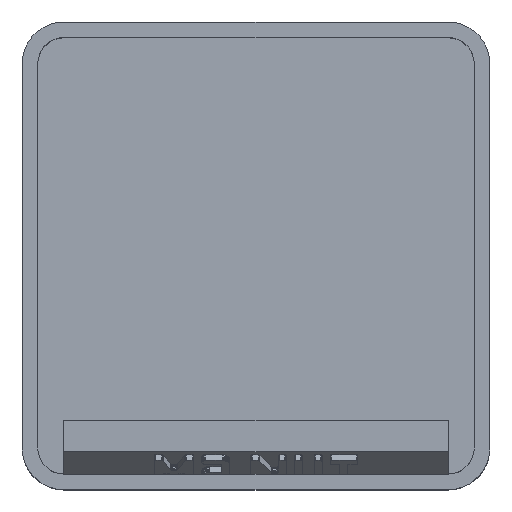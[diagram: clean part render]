
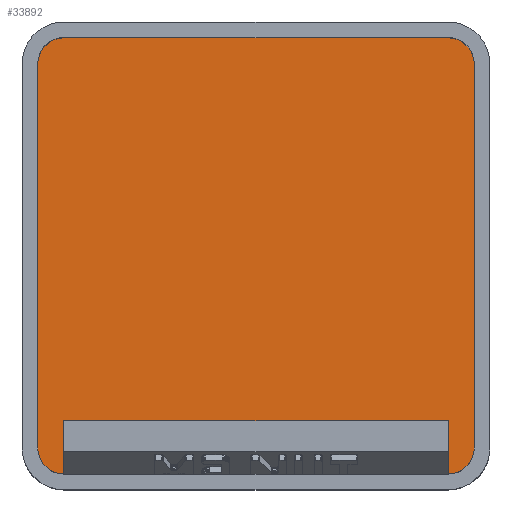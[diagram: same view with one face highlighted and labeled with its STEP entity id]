
A CAD part, top view. The second image highlights one B-rep face of the part: STEP entity #33892.
In plain terms, the highlighted planar face has unit normal (0, 0, 1).
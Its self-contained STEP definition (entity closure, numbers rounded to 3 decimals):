
#912 = PLANE('',#913);
#913 = AXIS2_PLACEMENT_3D('',#914,#915,#916);
#914 = CARTESIAN_POINT('',(-19.6,0.,21.));
#915 = DIRECTION('',(-1.,0.,0.));
#916 = DIRECTION('',(-0.,-1.,-0.));
#940 = CYLINDRICAL_SURFACE('',#941,2.35);
#941 = AXIS2_PLACEMENT_3D('',#942,#943,#944);
#942 = CARTESIAN_POINT('',(-17.25,17.25,5.95));
#943 = DIRECTION('',(-0.,-0.,1.));
#944 = DIRECTION('',(-1.,0.,0.));
#967 = PLANE('',#968);
#968 = AXIS2_PLACEMENT_3D('',#969,#970,#971);
#969 = CARTESIAN_POINT('',(0.,19.6,21.));
#970 = DIRECTION('',(0.,1.,0.));
#971 = DIRECTION('',(-1.,0.,0.));
#995 = CYLINDRICAL_SURFACE('',#996,2.35);
#996 = AXIS2_PLACEMENT_3D('',#997,#998,#999);
#997 = CARTESIAN_POINT('',(17.25,17.25,5.95));
#998 = DIRECTION('',(-0.,-0.,1.));
#999 = DIRECTION('',(-1.,0.,0.));
#1022 = PLANE('',#1023);
#1023 = AXIS2_PLACEMENT_3D('',#1024,#1025,#1026);
#1024 = CARTESIAN_POINT('',(19.6,0.,21.));
#1025 = DIRECTION('',(1.,0.,0.));
#1026 = DIRECTION('',(-0.,1.,0.));
#1050 = CYLINDRICAL_SURFACE('',#1051,2.35);
#1051 = AXIS2_PLACEMENT_3D('',#1052,#1053,#1054);
#1052 = CARTESIAN_POINT('',(17.25,-17.25,5.95));
#1053 = DIRECTION('',(-0.,-0.,1.));
#1054 = DIRECTION('',(-1.,0.,0.));
#1103 = CYLINDRICAL_SURFACE('',#1104,2.35);
#1104 = AXIS2_PLACEMENT_3D('',#1105,#1106,#1107);
#1105 = CARTESIAN_POINT('',(-17.25,-17.25,5.95));
#1106 = DIRECTION('',(-0.,-0.,1.));
#1107 = DIRECTION('',(-1.,0.,0.));
#12717 = EDGE_CURVE('',#12718,#12720,#12722,.T.);
#12718 = VERTEX_POINT('',#12719);
#12719 = CARTESIAN_POINT('',(-19.6,-17.25,5.95));
#12720 = VERTEX_POINT('',#12721);
#12721 = CARTESIAN_POINT('',(-19.6,17.25,5.95));
#12722 = SURFACE_CURVE('',#12723,(#12727,#12734),.PCURVE_S1.);
#12723 = LINE('',#12724,#12725);
#12724 = CARTESIAN_POINT('',(-19.6,0.,5.95));
#12725 = VECTOR('',#12726,1.);
#12726 = DIRECTION('',(0.,1.,0.));
#12727 = PCURVE('',#912,#12728);
#12728 = DEFINITIONAL_REPRESENTATION('',(#12729),#12733);
#12729 = LINE('',#12730,#12731);
#12730 = CARTESIAN_POINT('',(0.,-15.05));
#12731 = VECTOR('',#12732,1.);
#12732 = DIRECTION('',(-1.,0.));
#12733 = ( GEOMETRIC_REPRESENTATION_CONTEXT(2) 
PARAMETRIC_REPRESENTATION_CONTEXT() REPRESENTATION_CONTEXT('2D SPACE',''
  ) );
#12734 = PCURVE('',#12735,#12740);
#12735 = PLANE('',#12736);
#12736 = AXIS2_PLACEMENT_3D('',#12737,#12738,#12739);
#12737 = CARTESIAN_POINT('',(-17.25,-17.25,5.95));
#12738 = DIRECTION('',(0.,0.,-1.));
#12739 = DIRECTION('',(-1.,0.,0.));
#12740 = DEFINITIONAL_REPRESENTATION('',(#12741),#12745);
#12741 = LINE('',#12742,#12743);
#12742 = CARTESIAN_POINT('',(2.35,17.25));
#12743 = VECTOR('',#12744,1.);
#12744 = DIRECTION('',(0.,1.));
#12745 = ( GEOMETRIC_REPRESENTATION_CONTEXT(2) 
PARAMETRIC_REPRESENTATION_CONTEXT() REPRESENTATION_CONTEXT('2D SPACE',''
  ) );
#12792 = EDGE_CURVE('',#12793,#12718,#12795,.T.);
#12793 = VERTEX_POINT('',#12794);
#12794 = CARTESIAN_POINT('',(-17.25,-19.6,5.95));
#12795 = SURFACE_CURVE('',#12796,(#12801,#12808),.PCURVE_S1.);
#12796 = CIRCLE('',#12797,2.35);
#12797 = AXIS2_PLACEMENT_3D('',#12798,#12799,#12800);
#12798 = CARTESIAN_POINT('',(-17.25,-17.25,5.95));
#12799 = DIRECTION('',(0.,0.,-1.));
#12800 = DIRECTION('',(-1.,0.,0.));
#12801 = PCURVE('',#1103,#12802);
#12802 = DEFINITIONAL_REPRESENTATION('',(#12803),#12807);
#12803 = LINE('',#12804,#12805);
#12804 = CARTESIAN_POINT('',(6.283,0.));
#12805 = VECTOR('',#12806,1.);
#12806 = DIRECTION('',(-1.,0.));
#12807 = ( GEOMETRIC_REPRESENTATION_CONTEXT(2) 
PARAMETRIC_REPRESENTATION_CONTEXT() REPRESENTATION_CONTEXT('2D SPACE',''
  ) );
#12808 = PCURVE('',#12735,#12809);
#12809 = DEFINITIONAL_REPRESENTATION('',(#12810),#12814);
#12810 = CIRCLE('',#12811,2.35);
#12811 = AXIS2_PLACEMENT_2D('',#12812,#12813);
#12812 = CARTESIAN_POINT('',(0.,0.));
#12813 = DIRECTION('',(1.,0.));
#12814 = ( GEOMETRIC_REPRESENTATION_CONTEXT(2) 
PARAMETRIC_REPRESENTATION_CONTEXT() REPRESENTATION_CONTEXT('2D SPACE',''
  ) );
#12832 = PLANE('',#12833);
#12833 = AXIS2_PLACEMENT_3D('',#12834,#12835,#12836);
#12834 = CARTESIAN_POINT('',(0.,-19.6,21.));
#12835 = DIRECTION('',(0.,-1.,0.));
#12836 = DIRECTION('',(1.,0.,0.));
#12919 = EDGE_CURVE('',#12920,#12922,#12924,.T.);
#12920 = VERTEX_POINT('',#12921);
#12921 = CARTESIAN_POINT('',(19.6,-17.25,5.95));
#12922 = VERTEX_POINT('',#12923);
#12923 = CARTESIAN_POINT('',(17.25,-19.6,5.95));
#12924 = SURFACE_CURVE('',#12925,(#12930,#12937),.PCURVE_S1.);
#12925 = CIRCLE('',#12926,2.35);
#12926 = AXIS2_PLACEMENT_3D('',#12927,#12928,#12929);
#12927 = CARTESIAN_POINT('',(17.25,-17.25,5.95));
#12928 = DIRECTION('',(0.,0.,-1.));
#12929 = DIRECTION('',(-1.,0.,0.));
#12930 = PCURVE('',#1050,#12931);
#12931 = DEFINITIONAL_REPRESENTATION('',(#12932),#12936);
#12932 = LINE('',#12933,#12934);
#12933 = CARTESIAN_POINT('',(6.283,0.));
#12934 = VECTOR('',#12935,1.);
#12935 = DIRECTION('',(-1.,0.));
#12936 = ( GEOMETRIC_REPRESENTATION_CONTEXT(2) 
PARAMETRIC_REPRESENTATION_CONTEXT() REPRESENTATION_CONTEXT('2D SPACE',''
  ) );
#12937 = PCURVE('',#12735,#12938);
#12938 = DEFINITIONAL_REPRESENTATION('',(#12939),#12943);
#12939 = CIRCLE('',#12940,2.35);
#12940 = AXIS2_PLACEMENT_2D('',#12941,#12942);
#12941 = CARTESIAN_POINT('',(-34.5,0.));
#12942 = DIRECTION('',(1.,0.));
#12943 = ( GEOMETRIC_REPRESENTATION_CONTEXT(2) 
PARAMETRIC_REPRESENTATION_CONTEXT() REPRESENTATION_CONTEXT('2D SPACE',''
  ) );
#13017 = EDGE_CURVE('',#12920,#13018,#13020,.T.);
#13018 = VERTEX_POINT('',#13019);
#13019 = CARTESIAN_POINT('',(19.6,17.25,5.95));
#13020 = SURFACE_CURVE('',#13021,(#13025,#13032),.PCURVE_S1.);
#13021 = LINE('',#13022,#13023);
#13022 = CARTESIAN_POINT('',(19.6,0.,5.95));
#13023 = VECTOR('',#13024,1.);
#13024 = DIRECTION('',(0.,1.,0.));
#13025 = PCURVE('',#1022,#13026);
#13026 = DEFINITIONAL_REPRESENTATION('',(#13027),#13031);
#13027 = LINE('',#13028,#13029);
#13028 = CARTESIAN_POINT('',(0.,-15.05));
#13029 = VECTOR('',#13030,1.);
#13030 = DIRECTION('',(1.,0.));
#13031 = ( GEOMETRIC_REPRESENTATION_CONTEXT(2) 
PARAMETRIC_REPRESENTATION_CONTEXT() REPRESENTATION_CONTEXT('2D SPACE',''
  ) );
#13032 = PCURVE('',#12735,#13033);
#13033 = DEFINITIONAL_REPRESENTATION('',(#13034),#13038);
#13034 = LINE('',#13035,#13036);
#13035 = CARTESIAN_POINT('',(-36.85,17.25));
#13036 = VECTOR('',#13037,1.);
#13037 = DIRECTION('',(0.,1.));
#13038 = ( GEOMETRIC_REPRESENTATION_CONTEXT(2) 
PARAMETRIC_REPRESENTATION_CONTEXT() REPRESENTATION_CONTEXT('2D SPACE',''
  ) );
#13065 = EDGE_CURVE('',#13066,#13018,#13068,.T.);
#13066 = VERTEX_POINT('',#13067);
#13067 = CARTESIAN_POINT('',(17.25,19.6,5.95));
#13068 = SURFACE_CURVE('',#13069,(#13074,#13081),.PCURVE_S1.);
#13069 = CIRCLE('',#13070,2.35);
#13070 = AXIS2_PLACEMENT_3D('',#13071,#13072,#13073);
#13071 = CARTESIAN_POINT('',(17.25,17.25,5.95));
#13072 = DIRECTION('',(0.,0.,-1.));
#13073 = DIRECTION('',(-1.,0.,0.));
#13074 = PCURVE('',#995,#13075);
#13075 = DEFINITIONAL_REPRESENTATION('',(#13076),#13080);
#13076 = LINE('',#13077,#13078);
#13077 = CARTESIAN_POINT('',(6.283,0.));
#13078 = VECTOR('',#13079,1.);
#13079 = DIRECTION('',(-1.,0.));
#13080 = ( GEOMETRIC_REPRESENTATION_CONTEXT(2) 
PARAMETRIC_REPRESENTATION_CONTEXT() REPRESENTATION_CONTEXT('2D SPACE',''
  ) );
#13081 = PCURVE('',#12735,#13082);
#13082 = DEFINITIONAL_REPRESENTATION('',(#13083),#13087);
#13083 = CIRCLE('',#13084,2.35);
#13084 = AXIS2_PLACEMENT_2D('',#13085,#13086);
#13085 = CARTESIAN_POINT('',(-34.5,34.5));
#13086 = DIRECTION('',(1.,0.));
#13087 = ( GEOMETRIC_REPRESENTATION_CONTEXT(2) 
PARAMETRIC_REPRESENTATION_CONTEXT() REPRESENTATION_CONTEXT('2D SPACE',''
  ) );
#13115 = EDGE_CURVE('',#13116,#13066,#13118,.T.);
#13116 = VERTEX_POINT('',#13117);
#13117 = CARTESIAN_POINT('',(-17.25,19.6,5.95));
#13118 = SURFACE_CURVE('',#13119,(#13123,#13130),.PCURVE_S1.);
#13119 = LINE('',#13120,#13121);
#13120 = CARTESIAN_POINT('',(0.,19.6,5.95));
#13121 = VECTOR('',#13122,1.);
#13122 = DIRECTION('',(1.,0.,0.));
#13123 = PCURVE('',#967,#13124);
#13124 = DEFINITIONAL_REPRESENTATION('',(#13125),#13129);
#13125 = LINE('',#13126,#13127);
#13126 = CARTESIAN_POINT('',(0.,-15.05));
#13127 = VECTOR('',#13128,1.);
#13128 = DIRECTION('',(-1.,0.));
#13129 = ( GEOMETRIC_REPRESENTATION_CONTEXT(2) 
PARAMETRIC_REPRESENTATION_CONTEXT() REPRESENTATION_CONTEXT('2D SPACE',''
  ) );
#13130 = PCURVE('',#12735,#13131);
#13131 = DEFINITIONAL_REPRESENTATION('',(#13132),#13136);
#13132 = LINE('',#13133,#13134);
#13133 = CARTESIAN_POINT('',(-17.25,36.85));
#13134 = VECTOR('',#13135,1.);
#13135 = DIRECTION('',(-1.,0.));
#13136 = ( GEOMETRIC_REPRESENTATION_CONTEXT(2) 
PARAMETRIC_REPRESENTATION_CONTEXT() REPRESENTATION_CONTEXT('2D SPACE',''
  ) );
#13164 = EDGE_CURVE('',#12720,#13116,#13165,.T.);
#13165 = SURFACE_CURVE('',#13166,(#13171,#13178),.PCURVE_S1.);
#13166 = CIRCLE('',#13167,2.35);
#13167 = AXIS2_PLACEMENT_3D('',#13168,#13169,#13170);
#13168 = CARTESIAN_POINT('',(-17.25,17.25,5.95));
#13169 = DIRECTION('',(0.,0.,-1.));
#13170 = DIRECTION('',(-1.,0.,0.));
#13171 = PCURVE('',#940,#13172);
#13172 = DEFINITIONAL_REPRESENTATION('',(#13173),#13177);
#13173 = LINE('',#13174,#13175);
#13174 = CARTESIAN_POINT('',(6.283,0.));
#13175 = VECTOR('',#13176,1.);
#13176 = DIRECTION('',(-1.,0.));
#13177 = ( GEOMETRIC_REPRESENTATION_CONTEXT(2) 
PARAMETRIC_REPRESENTATION_CONTEXT() REPRESENTATION_CONTEXT('2D SPACE',''
  ) );
#13178 = PCURVE('',#12735,#13179);
#13179 = DEFINITIONAL_REPRESENTATION('',(#13180),#13184);
#13180 = CIRCLE('',#13181,2.35);
#13181 = AXIS2_PLACEMENT_2D('',#13182,#13183);
#13182 = CARTESIAN_POINT('',(0.,34.5));
#13183 = DIRECTION('',(1.,0.));
#13184 = ( GEOMETRIC_REPRESENTATION_CONTEXT(2) 
PARAMETRIC_REPRESENTATION_CONTEXT() REPRESENTATION_CONTEXT('2D SPACE',''
  ) );
#33892 = ADVANCED_FACE('',(#33893),#12735,.F.);
#33893 = FACE_BOUND('',#33894,.T.);
#33894 = EDGE_LOOP('',(#33895,#33896,#33897,#33918,#33919,#33920,#33921,
    #33922));
#33895 = ORIENTED_EDGE('',*,*,#12717,.F.);
#33896 = ORIENTED_EDGE('',*,*,#12792,.F.);
#33897 = ORIENTED_EDGE('',*,*,#33898,.T.);
#33898 = EDGE_CURVE('',#12793,#12922,#33899,.T.);
#33899 = SURFACE_CURVE('',#33900,(#33904,#33911),.PCURVE_S1.);
#33900 = LINE('',#33901,#33902);
#33901 = CARTESIAN_POINT('',(0.,-19.6,5.95));
#33902 = VECTOR('',#33903,1.);
#33903 = DIRECTION('',(1.,0.,0.));
#33904 = PCURVE('',#12735,#33905);
#33905 = DEFINITIONAL_REPRESENTATION('',(#33906),#33910);
#33906 = LINE('',#33907,#33908);
#33907 = CARTESIAN_POINT('',(-17.25,-2.35));
#33908 = VECTOR('',#33909,1.);
#33909 = DIRECTION('',(-1.,0.));
#33910 = ( GEOMETRIC_REPRESENTATION_CONTEXT(2) 
PARAMETRIC_REPRESENTATION_CONTEXT() REPRESENTATION_CONTEXT('2D SPACE',''
  ) );
#33911 = PCURVE('',#12832,#33912);
#33912 = DEFINITIONAL_REPRESENTATION('',(#33913),#33917);
#33913 = LINE('',#33914,#33915);
#33914 = CARTESIAN_POINT('',(0.,-15.05));
#33915 = VECTOR('',#33916,1.);
#33916 = DIRECTION('',(1.,0.));
#33917 = ( GEOMETRIC_REPRESENTATION_CONTEXT(2) 
PARAMETRIC_REPRESENTATION_CONTEXT() REPRESENTATION_CONTEXT('2D SPACE',''
  ) );
#33918 = ORIENTED_EDGE('',*,*,#12919,.F.);
#33919 = ORIENTED_EDGE('',*,*,#13017,.T.);
#33920 = ORIENTED_EDGE('',*,*,#13065,.F.);
#33921 = ORIENTED_EDGE('',*,*,#13115,.F.);
#33922 = ORIENTED_EDGE('',*,*,#13164,.F.);
